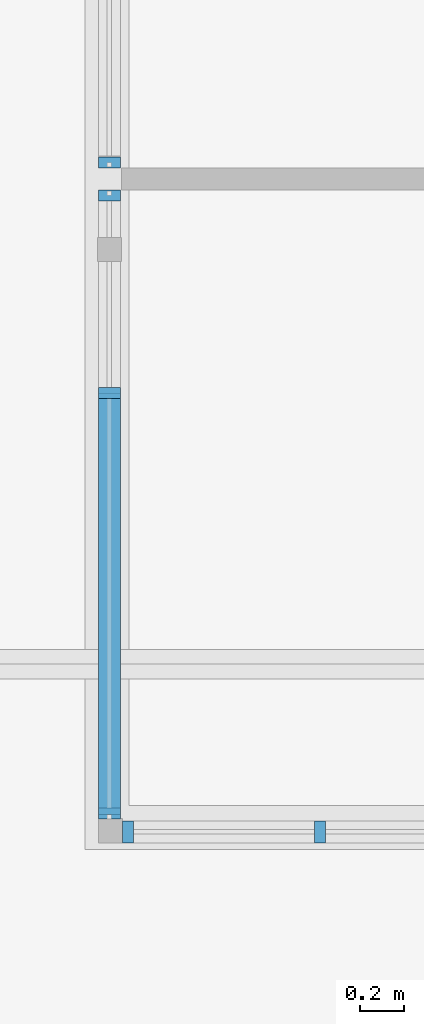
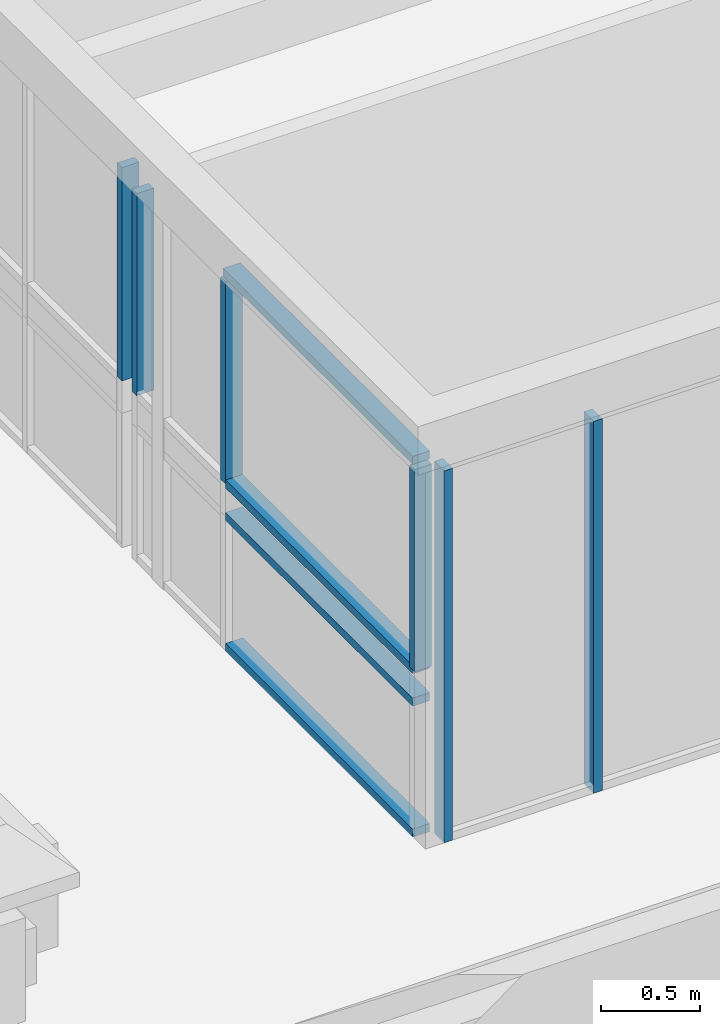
# One storey, part 7 of 153: 10 members, 3 elements without a shape of their own.
"""IFC4 building model written with IfcOpenShell, lengths in metres."""

from ifc_helpers import new_model, entity, si_unit, converted_unit, derived_unit, direction, frame, origin, place, context, subcontext, project, spatial, indexed_curve, outline, extrude, source, transform, mapped, material, type_object, type_shapes, element, aggregate, save


model = new_model("IFC4")

# Units and contexts
model_context = context("Model", 3, precision=1e-05, world=origin(), true_north=direction((6.123031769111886e-17, 1.0)))
body_context = subcontext(model_context, "Body", "Model", "MODEL_VIEW")
ifc_project = project(units=[si_unit("LENGTHUNIT", "METRE"), si_unit("AREAUNIT", "SQUARE_METRE"), si_unit("VOLUMEUNIT", "CUBIC_METRE"), converted_unit("PLANEANGLEUNIT", "DEGREE", entity("IfcRatioMeasure", 0.017453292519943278), si_unit("PLANEANGLEUNIT", "RADIAN"), dimensions=[0, 0, 0, 0, 0, 0, 0]), si_unit("MASSUNIT", "GRAM", prefix="KILO"), derived_unit("MASSDENSITYUNIT", [(si_unit("MASSUNIT", "GRAM", prefix="KILO"), 1), (si_unit("LENGTHUNIT", "METRE"), -3)]), derived_unit("MOMENTOFINERTIAUNIT", [(si_unit("LENGTHUNIT", "METRE"), 4)]), si_unit("TIMEUNIT", "SECOND"), si_unit("FREQUENCYUNIT", "HERTZ"), si_unit("THERMODYNAMICTEMPERATUREUNIT", "DEGREE_CELSIUS"), derived_unit("THERMALTRANSMITTANCEUNIT", [(si_unit("MASSUNIT", "GRAM", prefix="KILO"), 1), (si_unit("THERMODYNAMICTEMPERATUREUNIT", "KELVIN"), -1), (si_unit("TIMEUNIT", "SECOND"), -3)]), derived_unit("VOLUMETRICFLOWRATEUNIT", [(si_unit("LENGTHUNIT", "METRE"), 3), (si_unit("TIMEUNIT", "SECOND"), -1)]), derived_unit("MASSFLOWRATEUNIT", [(si_unit("MASSUNIT", "GRAM", prefix="KILO"), 1), (si_unit("TIMEUNIT", "SECOND"), -1)]), derived_unit("ROTATIONALFREQUENCYUNIT", [(si_unit("TIMEUNIT", "SECOND"), -1)]), si_unit("ELECTRICCURRENTUNIT", "AMPERE"), si_unit("ELECTRICVOLTAGEUNIT", "VOLT"), si_unit("POWERUNIT", "WATT"), si_unit("FORCEUNIT", "NEWTON", prefix="KILO"), si_unit("ILLUMINANCEUNIT", "LUX"), si_unit("LUMINOUSFLUXUNIT", "LUMEN"), si_unit("LUMINOUSINTENSITYUNIT", "CANDELA"), derived_unit("USERDEFINED", [(si_unit("MASSUNIT", "GRAM", prefix="KILO"), -1), (si_unit("LENGTHUNIT", "METRE"), -2), (si_unit("TIMEUNIT", "SECOND"), 3), (si_unit("LUMINOUSFLUXUNIT", "LUMEN"), 1)]), derived_unit("SOUNDPOWERUNIT", [(si_unit("MASSUNIT", "GRAM", prefix="KILO"), 1), (si_unit("LENGTHUNIT", "METRE"), 2), (si_unit("TIMEUNIT", "SECOND"), -3)]), derived_unit("SOUNDPRESSUREUNIT", [(si_unit("MASSUNIT", "GRAM", prefix="KILO"), 1), (si_unit("LENGTHUNIT", "METRE"), -1), (si_unit("TIMEUNIT", "SECOND"), -2)]), derived_unit("LINEARVELOCITYUNIT", [(si_unit("LENGTHUNIT", "METRE"), 1), (si_unit("TIMEUNIT", "SECOND"), -1)]), si_unit("PRESSUREUNIT", "PASCAL"), derived_unit("USERDEFINED", [(si_unit("LENGTHUNIT", "METRE"), -2), (si_unit("MASSUNIT", "GRAM", prefix="KILO"), 1), (si_unit("TIMEUNIT", "SECOND"), -2)]), derived_unit("LINEARFORCEUNIT", [(si_unit("MASSUNIT", "GRAM", prefix="KILO"), 1), (si_unit("LENGTHUNIT", "METRE"), 1), (si_unit("TIMEUNIT", "SECOND"), -2), (si_unit("LENGTHUNIT", "METRE"), -1)]), derived_unit("PLANARFORCEUNIT", [(si_unit("MASSUNIT", "GRAM", prefix="KILO"), 1), (si_unit("LENGTHUNIT", "METRE"), 1), (si_unit("TIMEUNIT", "SECOND"), -2), (si_unit("LENGTHUNIT", "METRE"), -2)])], contexts=[model_context])

# Site, building, storey
site_placement = place(None, origin())
site = spatial("IfcSite", under=ifc_project, at=site_placement, Name="Superficie", CompositionType="ELEMENT")
building_placement = place(site_placement, origin())
building = spatial("IfcBuilding", under=site, at=building_placement, CompositionType="ELEMENT")
storey_placement = place(building_placement, frame((0.0, 0.0, 3.5999999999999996)))
storey = spatial("IfcBuildingStorey", under=building, at=storey_placement, Name="Nivel 1", CompositionType="ELEMENT", Elevation=3.5999999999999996)

# Curtain wall, members
curtain_wall_type = type_object("IfcCurtainWallType", Name="Muro cortina:Muro cortina - simple", PredefinedType="NOTDEFINED")
curtain_wall_1_placement = place(storey_placement, frame((0.0, 0.0, -3.5999999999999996)))
curtain_wall_1 = element("IfcCurtainWall", 1, at=curtain_wall_1_placement, inside=storey, type_object=curtain_wall_type, Name="Muro cortina:Muro cortina - simple", ObjectType="Muro cortina:Muro cortina - simple", PredefinedType="NOTDEFINED")
ifc_material = material(Name="<Unnamed>")
member_type_1 = type_object("IfcMemberType", Name="Montante rectangular:Montante rectangular - 5 x 10 cm", PredefinedType="MULLION", material=ifc_material)
shared_shape_1 = source(origin(), body_context, "Body", "SweptSolid", [
    extrude(outline(indexed_curve([(-0.05, -0.025), (0.05, -0.025), (0.05, 0.025), (-0.05, 0.025), (-0.05, -0.025)], self_intersect=False)), frame((0.0, 0.0, -1.2499999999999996), z_axis=(0.0, 0.0, 1.0), x_axis=(0.0, -1.0, 0.0)), (0.0, 0.0, 1.0), 1.2499999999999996),
])
type_shapes(member_type_1, [shared_shape_1])
member_1_placement = place(curtain_wall_1_placement, frame((3.091799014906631, 1.947083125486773, 4.63), z_axis=(0.0, 0.0, -1.0), x_axis=(0.0, 1.0, 0.0)))
member_1 = element("IfcMember", 2, at=member_1_placement, type_object=member_type_1, material=ifc_material, Name="Montante rectangular:Montante rectangular - 5 x 10 cm", ObjectType="Montante rectangular:Montante rectangular - 5 x 10 cm", PredefinedType="MULLION", context=body_context, shape_type="MappedRepresentation", body=[
    mapped(shared_shape_1, transform((0.0, 0.0, 0.0), scale=1.0)),
])
member_type_2 = type_object("IfcMemberType", Name="Montante rectangular:Montante rectangular - 5 x 10 cm", PredefinedType="MULLION", material=ifc_material)
shared_shape_2 = source(origin(), body_context, "Body", "SweptSolid", [
    extrude(outline(indexed_curve([(-0.05, -0.025), (0.05, -0.025), (0.05, 0.025), (-0.05, 0.025), (-0.05, -0.025)], self_intersect=False)), frame((0.0, 0.0, -1.2499999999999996), z_axis=(0.0, 0.0, 1.0), x_axis=(0.0, -1.0, 0.0)), (0.0, 0.0, 1.0), 1.2499999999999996),
])
type_shapes(member_type_2, [shared_shape_2])
member_2_placement = place(curtain_wall_1_placement, frame((3.091799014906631, 1.0470831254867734, 4.63), z_axis=(0.0, 0.0, -1.0), x_axis=(0.0, 1.0, 0.0)))
member_2 = element("IfcMember", 3, at=member_2_placement, type_object=member_type_2, material=ifc_material, Name="Montante rectangular:Montante rectangular - 5 x 10 cm", ObjectType="Montante rectangular:Montante rectangular - 5 x 10 cm", PredefinedType="MULLION", context=body_context, shape_type="MappedRepresentation", body=[
    mapped(shared_shape_2, transform((0.0, 0.0, 0.0), scale=1.0)),
])
member_type_3 = type_object("IfcMemberType", Name="Montante rectangular:Montante rectangular - 5 x 10 cm", PredefinedType="MULLION", material=ifc_material)
shared_shape_3 = source(origin(), body_context, "Body", "SweptSolid", [
    extrude(outline(indexed_curve([(-0.05, -0.025), (0.05, -0.025), (0.05, 0.025), (-0.05, 0.025), (-0.05, -0.025)], self_intersect=False)), frame((0.0, 0.0, -1.8950000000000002), z_axis=(0.0, 0.0, 1.0), x_axis=(0.0, -1.0, 0.0)), (0.0, 0.0, 1.0), 1.8950000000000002),
])
type_shapes(member_type_3, [shared_shape_3])
member_3_placement = place(curtain_wall_1_placement, frame((3.091799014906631, 1.0220831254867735, 4.63), z_axis=(0.0, 1.0, 0.0), x_axis=(0.0, 0.0, 1.0)))
member_3 = element("IfcMember", 4, at=member_3_placement, type_object=member_type_3, material=ifc_material, Name="Montante rectangular:Montante rectangular - 5 x 10 cm", ObjectType="Montante rectangular:Montante rectangular - 5 x 10 cm", PredefinedType="MULLION", context=body_context, shape_type="MappedRepresentation", body=[
    mapped(shared_shape_3, transform((0.0, 0.0, 0.0), scale=1.0)),
])
member_4_placement = place(curtain_wall_1_placement, frame((3.091799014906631, 1.022083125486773, 4.43), z_axis=(0.0, 1.0, 0.0), x_axis=(0.0, 0.0, 1.0)))
member_4 = element("IfcMember", 5, at=member_4_placement, type_object=member_type_3, material=ifc_material, Name="Montante rectangular:Montante rectangular - 5 x 10 cm", ObjectType="Montante rectangular:Montante rectangular - 5 x 10 cm", PredefinedType="MULLION", context=body_context, shape_type="MappedRepresentation", body=[
    mapped(shared_shape_3, transform((0.0, 0.0, 0.0), scale=1.0)),
])
member_5_placement = place(curtain_wall_1_placement, frame((3.091799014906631, 1.0220831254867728, 3.619999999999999), z_axis=(0.0, 1.0, 0.0), x_axis=(0.0, 0.0, 1.0)))
member_5 = element("IfcMember", 6, at=member_5_placement, type_object=member_type_3, material=ifc_material, Name="Montante rectangular:Montante rectangular - 5 x 10 cm", ObjectType="Montante rectangular:Montante rectangular - 5 x 10 cm", PredefinedType="MULLION", context=body_context, shape_type="MappedRepresentation", body=[
    mapped(shared_shape_3, transform((0.0, 0.0, 0.0), scale=1.0)),
])
member_type_4 = type_object("IfcMemberType", Name="Montante rectangular:Montante rectangular - 5 x 10 cm", PredefinedType="MULLION", material=ifc_material)
shared_shape_4 = source(origin(), body_context, "Body", "SweptSolid", [
    extrude(outline(indexed_curve([(-0.05, -0.025), (0.05, -0.025), (0.05, 0.025), (-0.05, 0.025), (-0.05, -0.025)], self_intersect=False)), frame((-0.025, 0.0, -1.92), z_axis=(0.0, 0.0, 1.0), x_axis=(0.0, -1.0, 0.0)), (0.0, 0.0, 1.0), 1.92),
])
type_shapes(member_type_4, [shared_shape_4])
member_6_placement = place(curtain_wall_1_placement, frame((3.091799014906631, 1.0470831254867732, 5.949999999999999), z_axis=(0.0, 1.0, 0.0), x_axis=(0.0, 0.0, 1.0)))
member_6 = element("IfcMember", 7, at=member_6_placement, type_object=member_type_4, material=ifc_material, Name="Montante rectangular:Montante rectangular - 5 x 10 cm", ObjectType="Montante rectangular:Montante rectangular - 5 x 10 cm", PredefinedType="MULLION", context=body_context, shape_type="MappedRepresentation", body=[
    mapped(shared_shape_4, transform((0.0, 0.0, 0.0), scale=1.0)),
])

# Curtain wall, member
curtain_wall_2_placement = place(storey_placement, frame((0.0, 0.0, -3.5999999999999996)))
curtain_wall_2 = element("IfcCurtainWall", 8, at=curtain_wall_2_placement, inside=storey, type_object=curtain_wall_type, Name="Muro cortina:Muro cortina - simple", ObjectType="Muro cortina:Muro cortina - simple", PredefinedType="NOTDEFINED")
member_type_5 = type_object("IfcMemberType", Name="Montante rectangular:Montante rectangular - 5 x 10 cm", PredefinedType="MULLION", material=ifc_material)
shared_shape_5 = source(origin(), body_context, "Body", "SweptSolid", [
    extrude(outline(indexed_curve([(-0.05, -0.025), (0.05, -0.025), (0.05, 0.025), (-0.05, 0.025), (-0.05, -0.025)], self_intersect=False)), frame((0.0, 0.0, -1.3199999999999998), z_axis=(0.0, 0.0, 1.0), x_axis=(0.0, -1.0, 0.0)), (0.0, 0.0, 1.0), 1.3199999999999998),
])
type_shapes(member_type_5, [shared_shape_5])
member_7_placement = place(curtain_wall_2_placement, frame((3.091799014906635, 2.097083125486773, 4.63), z_axis=(0.0, 0.0, -1.0), x_axis=(0.0, 1.0, 0.0)))
member_7 = element("IfcMember", 9, at=member_7_placement, type_object=member_type_5, material=ifc_material, Name="Montante rectangular:Montante rectangular - 5 x 10 cm", ObjectType="Montante rectangular:Montante rectangular - 5 x 10 cm", PredefinedType="MULLION", context=body_context, shape_type="MappedRepresentation", body=[
    mapped(shared_shape_5, transform((0.0, 0.0, 0.0), scale=1.0)),
])
aggregate(curtain_wall_2, [member_7])

# Member
member_type_6 = type_object("IfcMemberType", Name="Montante rectangular:Montante rectangular - 5 x 10 cm", PredefinedType="MULLION", material=ifc_material)
shared_shape_6 = source(origin(), body_context, "Body", "SweptSolid", [
    extrude(outline(indexed_curve([(-0.05, -0.025), (0.05, -0.025), (0.05, 0.025), (-0.05, 0.025), (-0.05, -0.025)], self_intersect=False)), frame((-0.025, 0.0, -1.2499999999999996), z_axis=(0.0, 0.0, 1.0), x_axis=(0.0, -1.0, 0.0)), (0.0, 0.0, 1.0), 1.2499999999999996),
])
type_shapes(member_type_6, [shared_shape_6])
member_8_placement = place(curtain_wall_1_placement, frame((3.091799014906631, -0.8929168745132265, 5.879999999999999), z_axis=(0.0, 0.0, 1.0), x_axis=(0.0, -1.0, 0.0)))
member_8 = element("IfcMember", 10, at=member_8_placement, type_object=member_type_6, material=ifc_material, Name="Montante rectangular:Montante rectangular - 5 x 10 cm", ObjectType="Montante rectangular:Montante rectangular - 5 x 10 cm", PredefinedType="MULLION", context=body_context, shape_type="MappedRepresentation", body=[
    mapped(shared_shape_6, transform((0.0, 0.0, 0.0), scale=1.0)),
])

aggregate(curtain_wall_1, [member_1, member_2, member_3, member_4, member_5, member_8, member_6])

# Curtain wall, members
curtain_wall_3_placement = place(storey_placement, frame((0.0, 0.0, -3.5999999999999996)))
curtain_wall_3 = element("IfcCurtainWall", 11, at=curtain_wall_3_placement, inside=storey, type_object=curtain_wall_type, Name="Muro cortina:Muro cortina - simple", ObjectType="Muro cortina:Muro cortina - simple", PredefinedType="NOTDEFINED")
member_type_7 = type_object("IfcMemberType", Name="Montante rectangular:Montante rectangular - 5 x 10 cm", PredefinedType="MULLION", material=ifc_material)
shared_shape_7 = source(origin(), body_context, "Body", "SweptSolid", [
    extrude(outline(indexed_curve([(-0.05, -0.025), (0.05, -0.025), (0.05, 0.025), (-0.05, 0.025), (-0.05, -0.025)], self_intersect=False)), frame((-0.025, 0.0, -2.3000000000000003), z_axis=(0.0, 0.0, 1.0), x_axis=(0.0, -1.0, 0.0)), (0.0, 0.0, 1.0), 2.3000000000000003),
])
type_shapes(member_type_7, [shared_shape_7])
member_9_placement = place(curtain_wall_3_placement, frame((3.151799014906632, -0.9517564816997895, 5.9), z_axis=(0.0, 0.0, 1.0), x_axis=(-1.0, 0.0, 0.0)))
member_9 = element("IfcMember", 12, at=member_9_placement, type_object=member_type_7, material=ifc_material, Name="Montante rectangular:Montante rectangular - 5 x 10 cm", ObjectType="Montante rectangular:Montante rectangular - 5 x 10 cm", PredefinedType="MULLION", context=body_context, shape_type="MappedRepresentation", body=[
    mapped(shared_shape_7, transform((0.0, 0.0, 0.0), scale=1.0)),
])
member_type_8 = type_object("IfcMemberType", Name="Montante rectangular:Montante rectangular - 5 x 10 cm", PredefinedType="MULLION", material=ifc_material)
shared_shape_8 = source(origin(), body_context, "Body", "SweptSolid", [
    extrude(outline(indexed_curve([(-0.05, -0.025), (0.05, -0.025), (0.05, 0.025), (-0.05, 0.025), (-0.05, -0.025)], self_intersect=False)), frame((0.0, 0.0, -2.3000000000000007), z_axis=(0.0, 0.0, 1.0), x_axis=(0.0, -1.0, 0.0)), (0.0, 0.0, 1.0), 2.3000000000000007),
])
type_shapes(member_type_8, [shared_shape_8])
member_10_placement = place(curtain_wall_3_placement, frame((4.051799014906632, -0.9517564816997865, 3.5999999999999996), z_axis=(0.0, 0.0, -1.0), x_axis=(1.0, 0.0, 0.0)))
member_10 = element("IfcMember", 13, at=member_10_placement, type_object=member_type_8, material=ifc_material, Name="Montante rectangular:Montante rectangular - 5 x 10 cm", ObjectType="Montante rectangular:Montante rectangular - 5 x 10 cm", PredefinedType="MULLION", context=body_context, shape_type="MappedRepresentation", body=[
    mapped(shared_shape_8, transform((0.0, 0.0, 0.0), scale=1.0)),
])
aggregate(curtain_wall_3, [member_9, member_10])

save(model, "model.ifc")
